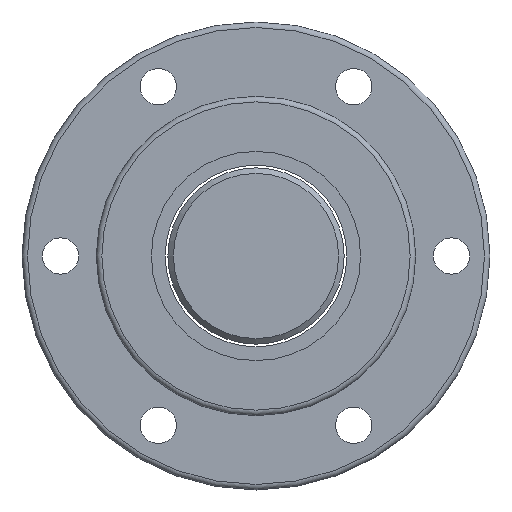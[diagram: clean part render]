
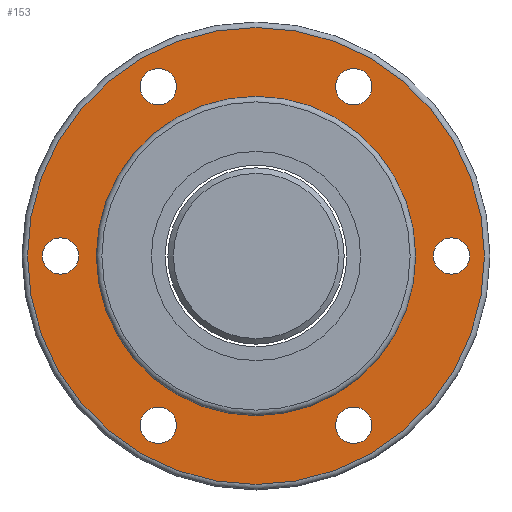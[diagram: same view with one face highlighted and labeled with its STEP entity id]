
A CAD part, left-side view. The second image highlights one B-rep face of the part: STEP entity #153.
In plain terms, the highlighted planar face has unit normal (-1, 0, 0).
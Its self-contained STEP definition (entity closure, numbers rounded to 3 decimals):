
#112=PLANE('',#658);
#131=FACE_OUTER_BOUND('',#312,.T.);
#153=ADVANCED_FACE('',(#220,#221,#222,#223,#224,#225,#226,#131),#112,.T.);
#220=FACE_BOUND('',#305,.T.);
#221=FACE_BOUND('',#306,.T.);
#222=FACE_BOUND('',#307,.T.);
#223=FACE_BOUND('',#308,.T.);
#224=FACE_BOUND('',#309,.T.);
#225=FACE_BOUND('',#310,.T.);
#226=FACE_BOUND('',#311,.T.);
#305=EDGE_LOOP('',(#403));
#306=EDGE_LOOP('',(#404));
#307=EDGE_LOOP('',(#405));
#308=EDGE_LOOP('',(#406));
#309=EDGE_LOOP('',(#407));
#310=EDGE_LOOP('',(#408));
#311=EDGE_LOOP('',(#409));
#312=EDGE_LOOP('',(#410));
#403=ORIENTED_EDGE('',*,*,#542,.F.);
#404=ORIENTED_EDGE('',*,*,#543,.F.);
#405=ORIENTED_EDGE('',*,*,#544,.F.);
#406=ORIENTED_EDGE('',*,*,#545,.F.);
#407=ORIENTED_EDGE('',*,*,#546,.F.);
#408=ORIENTED_EDGE('',*,*,#547,.F.);
#409=ORIENTED_EDGE('',*,*,#548,.T.);
#410=ORIENTED_EDGE('',*,*,#549,.F.);
#493=VERTEX_POINT('',#941);
#494=VERTEX_POINT('',#943);
#495=VERTEX_POINT('',#945);
#496=VERTEX_POINT('',#947);
#497=VERTEX_POINT('',#949);
#498=VERTEX_POINT('',#951);
#499=VERTEX_POINT('',#953);
#500=VERTEX_POINT('',#955);
#542=EDGE_CURVE('',#493,#493,#591,.T.);
#543=EDGE_CURVE('',#494,#494,#592,.T.);
#544=EDGE_CURVE('',#495,#495,#593,.T.);
#545=EDGE_CURVE('',#496,#496,#594,.T.);
#546=EDGE_CURVE('',#497,#497,#595,.T.);
#547=EDGE_CURVE('',#498,#498,#596,.T.);
#548=EDGE_CURVE('',#499,#499,#597,.T.);
#549=EDGE_CURVE('',#500,#500,#598,.T.);
#591=CIRCLE('',#650,3.3);
#592=CIRCLE('',#651,3.3);
#593=CIRCLE('',#652,3.3);
#594=CIRCLE('',#653,3.3);
#595=CIRCLE('',#654,3.3);
#596=CIRCLE('',#655,3.3);
#597=CIRCLE('',#656,29.);
#598=CIRCLE('',#657,41.5);
#650=AXIS2_PLACEMENT_3D('',#940,#762,#763);
#651=AXIS2_PLACEMENT_3D('',#942,#764,#765);
#652=AXIS2_PLACEMENT_3D('',#944,#766,#767);
#653=AXIS2_PLACEMENT_3D('',#946,#768,#769);
#654=AXIS2_PLACEMENT_3D('',#948,#770,#771);
#655=AXIS2_PLACEMENT_3D('',#950,#772,#773);
#656=AXIS2_PLACEMENT_3D('',#952,#774,#775);
#657=AXIS2_PLACEMENT_3D('',#954,#776,#777);
#658=AXIS2_PLACEMENT_3D('',#956,#778,#779);
#762=DIRECTION('',(-1.,0.,0.));
#763=DIRECTION('',(0.,-1.,0.));
#764=DIRECTION('',(-1.,0.,0.));
#765=DIRECTION('',(0.,-1.,0.));
#766=DIRECTION('',(-1.,0.,0.));
#767=DIRECTION('',(0.,-1.,0.));
#768=DIRECTION('',(-1.,0.,0.));
#769=DIRECTION('',(0.,-1.,0.));
#770=DIRECTION('',(-1.,0.,0.));
#771=DIRECTION('',(0.,-1.,0.));
#772=DIRECTION('',(-1.,0.,0.));
#773=DIRECTION('',(0.,-1.,0.));
#774=DIRECTION('',(1.,0.,0.));
#775=DIRECTION('',(0.,1.,0.));
#776=DIRECTION('',(1.,0.,0.));
#777=DIRECTION('',(0.,1.,0.));
#778=DIRECTION('',(-1.,0.,0.));
#779=DIRECTION('',(0.,-1.,0.));
#940=CARTESIAN_POINT('',(-27.,17.75,-30.744));
#941=CARTESIAN_POINT('',(-27.,14.45,-30.744));
#942=CARTESIAN_POINT('',(-27.,-17.75,-30.744));
#943=CARTESIAN_POINT('',(-27.,-21.05,-30.744));
#944=CARTESIAN_POINT('',(-27.,-35.5,0.));
#945=CARTESIAN_POINT('',(-27.,-38.8,0.));
#946=CARTESIAN_POINT('',(-27.,-17.75,30.744));
#947=CARTESIAN_POINT('',(-27.,-21.05,30.744));
#948=CARTESIAN_POINT('',(-27.,17.75,30.744));
#949=CARTESIAN_POINT('',(-27.,14.45,30.744));
#950=CARTESIAN_POINT('',(-27.,35.5,0.));
#951=CARTESIAN_POINT('',(-27.,32.2,0.));
#952=CARTESIAN_POINT('',(-27.,0.,0.));
#953=CARTESIAN_POINT('',(-27.,29.,0.));
#954=CARTESIAN_POINT('',(-27.,0.,0.));
#955=CARTESIAN_POINT('',(-27.,41.5,0.));
#956=CARTESIAN_POINT('',(-27.,35.25,0.));
